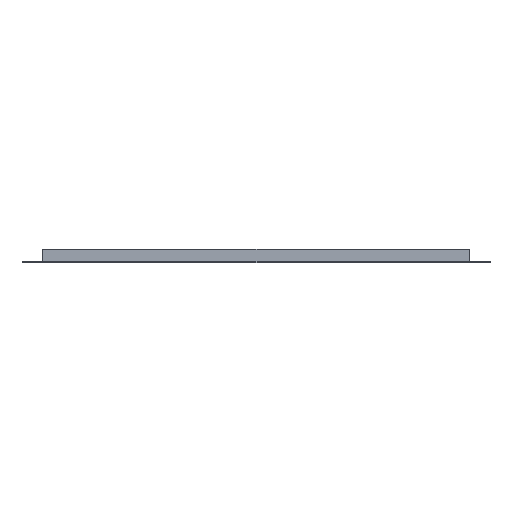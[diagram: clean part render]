
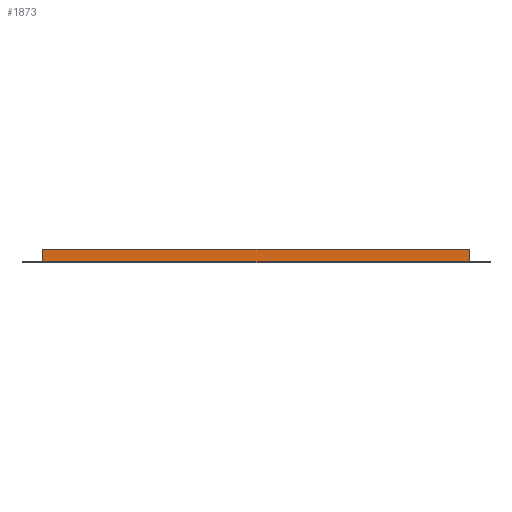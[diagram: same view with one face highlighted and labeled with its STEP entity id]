
A CAD part, left-side view. The second image highlights one B-rep face of the part: STEP entity #1873.
In plain terms, the highlighted planar face has unit normal (-1, 0, 0).
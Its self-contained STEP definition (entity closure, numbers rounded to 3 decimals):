
#1520 = VERTEX_POINT('',#1521);
#1521 = CARTESIAN_POINT('',(-825.,-310.,0.));
#1527 = EDGE_CURVE('',#1528,#1520,#1530,.T.);
#1528 = VERTEX_POINT('',#1529);
#1529 = CARTESIAN_POINT('',(-825.,310.,0.));
#1530 = LINE('',#1531,#1532);
#1531 = CARTESIAN_POINT('',(-825.,-310.,0.));
#1532 = VECTOR('',#1533,1.);
#1533 = DIRECTION('',(0.,-1.,0.));
#1752 = VERTEX_POINT('',#1753);
#1753 = CARTESIAN_POINT('',(-825.,310.,3.1));
#1768 = EDGE_CURVE('',#1752,#1528,#1769,.T.);
#1769 = LINE('',#1770,#1771);
#1770 = CARTESIAN_POINT('',(-825.,310.,3.1));
#1771 = VECTOR('',#1772,1.);
#1772 = DIRECTION('',(0.,0.,-1.));
#1792 = VERTEX_POINT('',#1793);
#1793 = CARTESIAN_POINT('',(-825.,-310.,3.1));
#1799 = EDGE_CURVE('',#1792,#1520,#1800,.T.);
#1800 = LINE('',#1801,#1802);
#1801 = CARTESIAN_POINT('',(-825.,-310.,2.5));
#1802 = VECTOR('',#1803,1.);
#1803 = DIRECTION('',(-0.,-0.,-1.));
#1825 = VERTEX_POINT('',#1826);
#1826 = CARTESIAN_POINT('',(-825.,-310.,20.));
#1832 = EDGE_CURVE('',#1792,#1825,#1833,.T.);
#1833 = LINE('',#1834,#1835);
#1834 = CARTESIAN_POINT('',(-825.,-310.,20.));
#1835 = VECTOR('',#1836,1.);
#1836 = DIRECTION('',(-0.,-0.,1.));
#1847 = EDGE_CURVE('',#1848,#1752,#1850,.T.);
#1848 = VERTEX_POINT('',#1849);
#1849 = CARTESIAN_POINT('',(-825.,310.,20.));
#1850 = LINE('',#1851,#1852);
#1851 = CARTESIAN_POINT('',(-825.,310.,2.5));
#1852 = VECTOR('',#1853,1.);
#1853 = DIRECTION('',(-0.,-0.,-1.));
#1873 = ADVANCED_FACE('',(#1874),#1887,.F.);
#1874 = FACE_BOUND('',#1875,.T.);
#1875 = EDGE_LOOP('',(#1876,#1877,#1878,#1879,#1880,#1881));
#1876 = ORIENTED_EDGE('',*,*,#1847,.T.);
#1877 = ORIENTED_EDGE('',*,*,#1768,.T.);
#1878 = ORIENTED_EDGE('',*,*,#1527,.T.);
#1879 = ORIENTED_EDGE('',*,*,#1799,.F.);
#1880 = ORIENTED_EDGE('',*,*,#1832,.T.);
#1881 = ORIENTED_EDGE('',*,*,#1882,.T.);
#1882 = EDGE_CURVE('',#1825,#1848,#1883,.T.);
#1883 = LINE('',#1884,#1885);
#1884 = CARTESIAN_POINT('',(-825.,310.,20.));
#1885 = VECTOR('',#1886,1.);
#1886 = DIRECTION('',(0.,1.,-0.));
#1887 = PLANE('',#1888);
#1888 = AXIS2_PLACEMENT_3D('',#1889,#1890,#1891);
#1889 = CARTESIAN_POINT('',(-825.,-310.,2.5));
#1890 = DIRECTION('',(1.,0.,0.));
#1891 = DIRECTION('',(0.,1.,0.));
